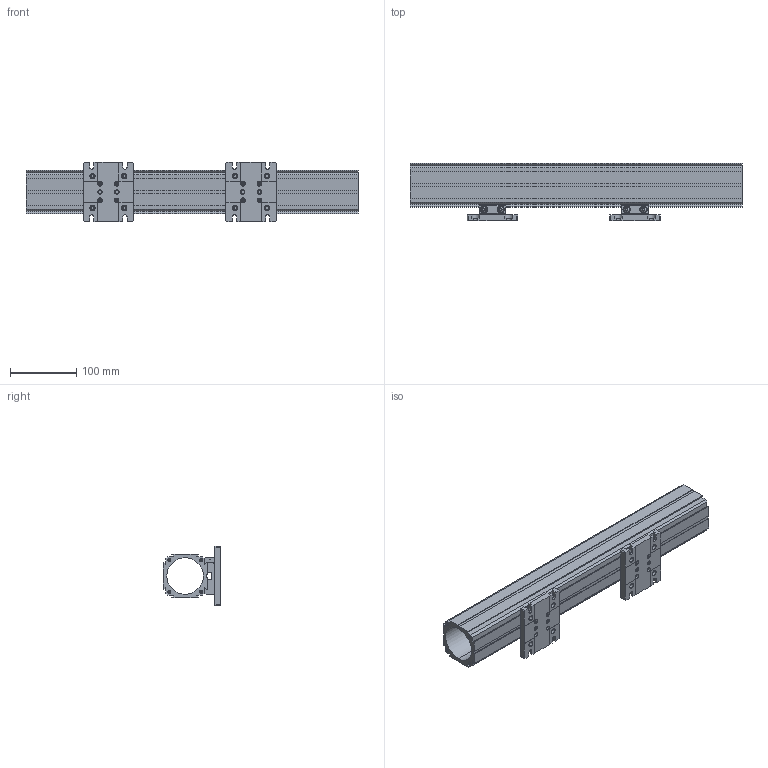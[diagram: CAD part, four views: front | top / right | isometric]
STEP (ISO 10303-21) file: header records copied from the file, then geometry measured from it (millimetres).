
FILE_DESCRIPTION((''),'2;1');
FILE_NAME('OPH-B500_ASM','2021-06-24T',('Administrator'),(''),'CREO PARAMETRIC BY PTC INC, 2015290','CREO PARAMETRIC BY PTC INC, 2015290','');
FILE_SCHEMA(('CONFIG_CONTROL_DESIGN'));
Products named in the file (8): M4X12_HP; WASHER_M4; OOP-MA_A1; OOP-MA_A2; OOP-MA_ASM; OPS-ML; OPH_A500; OPH-B500_ASM
Assembly tree (11 placements, depth 3):
  OPH-B500_ASM
    OOP-MA_ASM  x2
      M4X12_HP
      WASHER_M4
      OOP-MA_A1
      OOP-MA_A2
    OPS-ML  x2
    OPH_A500
Bounding box: 500 x 86.73 x 89.28 mm (x, y, z)
Volume: 922100.5 mm3; surface area: 295485 mm2
Topology: 15 solids, 15 shells, 1262 faces, 3620 edges, 2312 vertices
Faces by surface type: cylinder 476, plane 322, bspline 312, cone 132, extrusion 12, sphere 8
Entity records: 52683 total; most frequent: CARTESIAN_POINT 34572, ORIENTED_EDGE 4340, DIRECTION 2766, EDGE_CURVE 2170, VERTEX_POINT 1403, VECTOR 1052, LINE 1049, AXIS2_PLACEMENT_3D 857
